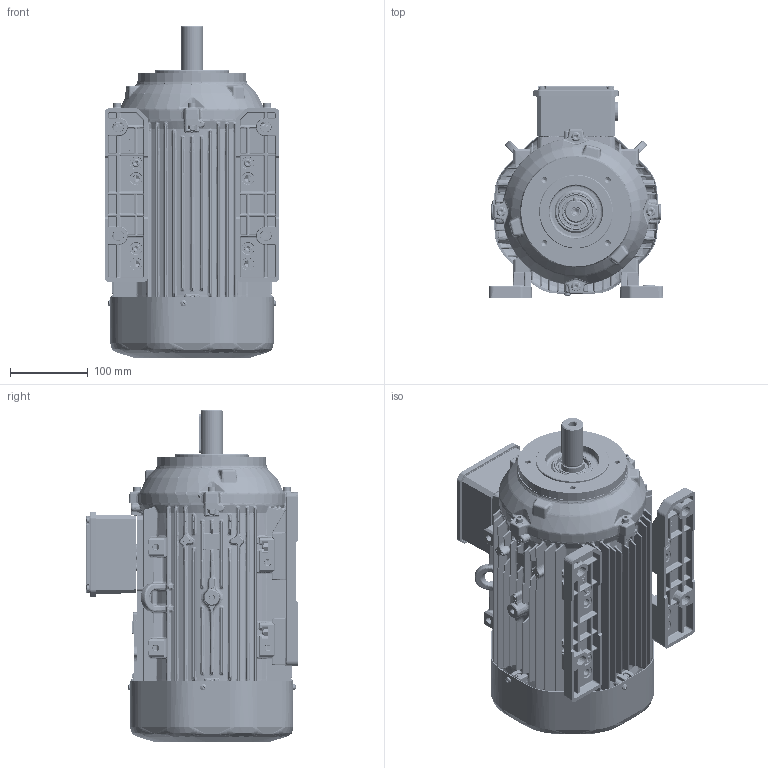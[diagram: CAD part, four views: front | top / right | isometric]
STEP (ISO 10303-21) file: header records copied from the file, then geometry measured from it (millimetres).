
FILE_DESCRIPTION(/* description */ (''),/* implementation_level */ '2;1');
FILE_NAME(/* name */ 'OUTLOOK VIEW QH112 PC B34 - REDUCED FT115 SPL.stp',/* time_stamp */ '2021-09-13T12:22:05+03:00',/* author */ (''),/* organization */ (''),/* preprocessor_version */ 'ST-DEVELOPER v16',/* originating_system */ 'SIEMENS PLM Software NX 11.0',/* authorisation */ '');
FILE_SCHEMA (('AUTOMOTIVE_DESIGN { 1 0 10303 214 3 1 1 1 }'));
Products named in the file (1): 26062CE45B9Cd58d
Bounding box: 225.12 x 274 x 427.6 mm (x, y, z)
Volume: 2563832.5 mm3; surface area: 1263091.3 mm2
Topology: 80 solids, 86 shells, 13300 faces, 31346 edges, 17701 vertices
Faces by surface type: cylinder 4305, bspline 3858, plane 2698, sphere 1050, torus 668, cone 642, extrusion 79
Full cylindrical faces by diameter (mm): 2 x14, 3 x2, 3.3 x4, 3.7 x4, 3.985 x1, 4 x9, 4.22 x1, 4.6 x3, 4.722 x2, 5 x11, 6 x12, 6.4 x16, 6.8 x4, 8 x9, 8.4 x1, 8.5 x1, 10 x12, 10.5 x1, 12 x12, 16 x1, 23.38 x2, 24.4 x1, 25 x3, 27.4 x1, 28 x1, 28.6 x1, 29.4 x2, 30 x5, 30.2 x1, 30.5 x1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
Entity records: 452363 total; most frequent: CARTESIAN_POINT 173910, ORIENTED_EDGE 59780, DIRECTION 55242, EDGE_CURVE 29890, AXIS2_PLACEMENT_3D 22797, VERTEX_POINT 17499, EDGE_LOOP 14509, ADVANCED_FACE 13293
